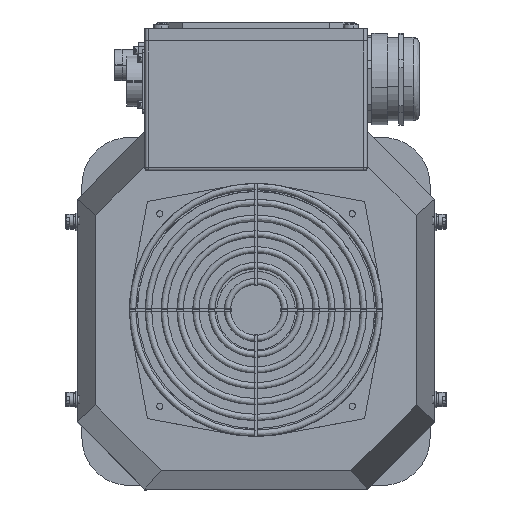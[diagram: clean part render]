
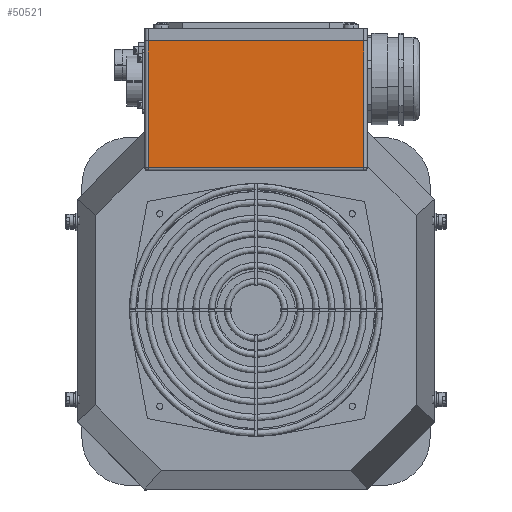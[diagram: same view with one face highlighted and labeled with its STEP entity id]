
A CAD part, top view. The second image highlights one B-rep face of the part: STEP entity #50521.
In plain terms, the highlighted planar face has unit normal (0, 0, 1).
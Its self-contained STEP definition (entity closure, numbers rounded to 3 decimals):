
#1818 = DIRECTION ( 'NONE',  ( 0., 0., -1. ) ) ;
#2649 = CARTESIAN_POINT ( 'NONE',  ( -68.25, 170., 560. ) ) ;
#3763 = EDGE_LOOP ( 'NONE', ( #48119, #63519, #50979, #70675 ) ) ;
#6632 = VECTOR ( 'NONE', #73756, 1000. ) ;
#10670 = CARTESIAN_POINT ( 'NONE',  ( 0., 90., 560. ) ) ;
#12025 = VECTOR ( 'NONE', #73600, 1000. ) ;
#14132 = FACE_OUTER_BOUND ( 'NONE', #3763, .T. ) ;
#21110 = VERTEX_POINT ( 'NONE', #56116 ) ;
#22468 = EDGE_CURVE ( 'NONE', #21110, #79602, #71125, .T. ) ;
#26378 = AXIS2_PLACEMENT_3D ( 'NONE', #2649, #1818, #52155 ) ;
#26911 = VECTOR ( 'NONE', #67758, 1000. ) ;
#39811 = EDGE_CURVE ( 'NONE', #64821, #65177, #69285, .T. ) ;
#44802 = EDGE_CURVE ( 'NONE', #64821, #79602, #75472, .T. ) ;
#46593 = CARTESIAN_POINT ( 'NONE',  ( -68.25, 170., 560. ) ) ;
#47142 = CARTESIAN_POINT ( 'NONE',  ( 68.25, 170., 560. ) ) ;
#48119 = ORIENTED_EDGE ( 'NONE', *, *, #51272, .F. ) ;
#48298 = CARTESIAN_POINT ( 'NONE',  ( -68.25, 130., 560. ) ) ;
#50521 = ADVANCED_FACE ( 'NONE', ( #14132 ), #58753, .F. ) ;
#50979 = ORIENTED_EDGE ( 'NONE', *, *, #44802, .F. ) ;
#51272 = EDGE_CURVE ( 'NONE', #21110, #65177, #64167, .T. ) ;
#52155 = DIRECTION ( 'NONE',  ( 1., 0., 0. ) ) ;
#56116 = CARTESIAN_POINT ( 'NONE',  ( 68.25, 90., 560. ) ) ;
#58753 = PLANE ( 'NONE',  #26378 ) ;
#62445 = VECTOR ( 'NONE', #63654, 1000. ) ;
#63519 = ORIENTED_EDGE ( 'NONE', *, *, #22468, .T. ) ;
#63654 = DIRECTION ( 'NONE',  ( 0., 1., 0. ) ) ;
#64167 = LINE ( 'NONE', #10670, #12025 ) ;
#64821 = VERTEX_POINT ( 'NONE', #46593 ) ;
#65177 = VERTEX_POINT ( 'NONE', #72143 ) ;
#66907 = CARTESIAN_POINT ( 'NONE',  ( 0., 170., 560. ) ) ;
#67758 = DIRECTION ( 'NONE',  ( 0., -1., 0. ) ) ;
#69285 = LINE ( 'NONE', #48298, #26911 ) ;
#70675 = ORIENTED_EDGE ( 'NONE', *, *, #39811, .T. ) ;
#71125 = LINE ( 'NONE', #76758, #62445 ) ;
#72143 = CARTESIAN_POINT ( 'NONE',  ( -68.25, 90., 560. ) ) ;
#73600 = DIRECTION ( 'NONE',  ( -1., 0., 0. ) ) ;
#73756 = DIRECTION ( 'NONE',  ( 1., 0., 0. ) ) ;
#75472 = LINE ( 'NONE', #66907, #6632 ) ;
#76758 = CARTESIAN_POINT ( 'NONE',  ( 68.25, 130., 560. ) ) ;
#79602 = VERTEX_POINT ( 'NONE', #47142 ) ;
